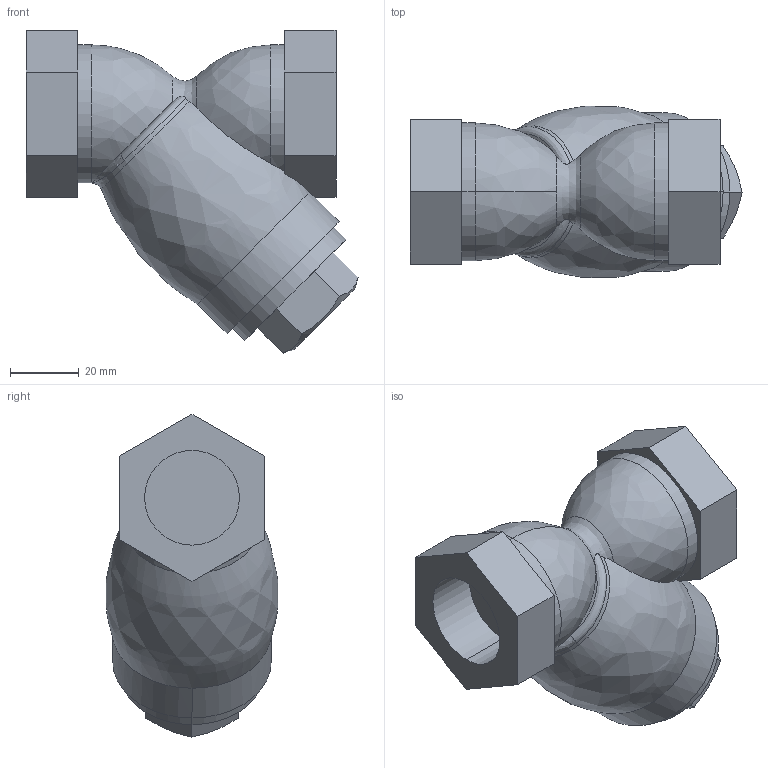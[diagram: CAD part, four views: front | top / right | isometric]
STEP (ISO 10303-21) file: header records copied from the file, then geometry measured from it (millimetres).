
FILE_DESCRIPTION( (''), '2;1');
FILE_NAME ('PC1276.13976.SY-5 20A_1348.stp','2025-09-19T09:19:25',(''),(''),'spGate 20.6.3 (****-****-****-****)','','');
FILE_SCHEMA (('AUTOMOTIVE_DESIGN'));
Length unit declared in the file: millimetre
Bounding box: 96.38 x 49.74 x 93.9 mm (x, y, z)
Volume: 182402.6 mm3; surface area: 25813.3 mm2
Topology: 1 solids, 1 shells, 56 faces, 143 edges, 94 vertices
Faces by surface type: plane 29, bspline 16, cylinder 11
Entity records: 3450 total; most frequent: CARTESIAN_POINT 1109, ORIENTED_EDGE 286, DIRECTION 202, COLOUR_RGB 200, PRESENTATION_STYLE_ASSIGNMENT 200, STYLED_ITEM 200, EDGE_CURVE 143, DRAUGHTING_PRE_DEFINED_CURVE_FONT 143
